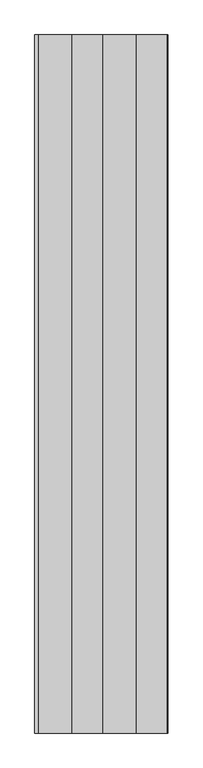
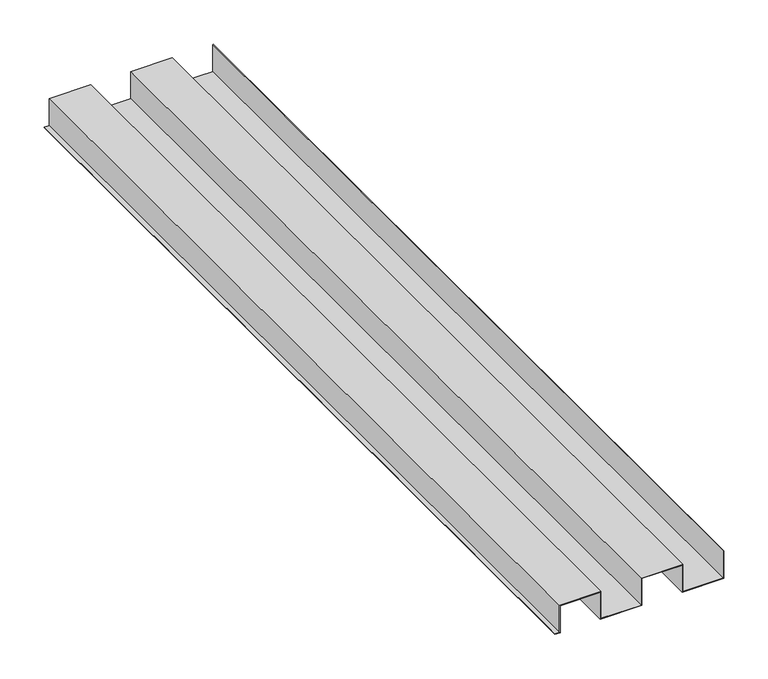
"""IFC4 building model written with IfcOpenShell, lengths in millimetres: proxy geometry, AQUAPLAST - Lamel elewacyjny : Lamel elewacyjny."""

from ifc_helpers import new_model, si_unit, frame, origin, place, context, project, spatial, polyline, outline, extrude, source, transform, mapped, element, save


def specialty_equipment_376aed12(model_context):
    return source(origin(), model_context, "Body", "SweptSolid", [
        extrude(outline(polyline([(0.0, 104.3), (0.0, 158.4), (38.0, 158.4), (38.0, 157.6), (0.8, 157.6), (0.8, 105.1), (38.0, 105.1), (38.0, 51.0), (0.8, 51.0), (0.8, -1.2), (38.0, -1.2), (38.0, -55.3), (0.8, -55.3), (0.8, -61.6), (0.0, -61.6), (0.0, -54.5), (37.2, -54.5), (37.2, -2.0), (0.0, -2.0), (0.0, 51.8), (37.2, 51.8), (37.2, 104.3), (0.0, 104.3)])), frame((0.0, 50.0, 0.0), z_axis=(0.0, 1.0, 0.0), x_axis=(0.0, 0.0, 1.0)), (0.0, 0.0, 1.0), 1150.0),
    ])


if __name__ == "__main__":
    model = new_model("IFC4")
    model_context = context("Model", 3, world=origin())
    ifc_project = project(units=[si_unit("LENGTHUNIT", "METRE", prefix="MILLI")], contexts=[model_context])
    site = spatial("IfcSite", under=ifc_project)
    building = spatial("IfcBuilding", under=site)
    placement = place(None, origin())
    specialty_equipment_shape = specialty_equipment_376aed12(model_context)
    element("IfcBuildingElementProxy", 1, Name="AQUAPLAST - Lamel elewacyjny : Lamel elewacyjny", ObjectType="AQUAPLAST - Lamel elewacyjny : Lamel elewacyjny", at=placement, inside=building, context=model_context, shape_type="MappedRepresentation", body=[
        mapped(specialty_equipment_shape, transform((0.0, 0.0, 0.0), x_axis=(1.0, 0.0, 0.0), y_axis=(0.0, 1.0, 0.0), z_axis=(0.0, 0.0, 1.0))),
    ])
    save(model, "model.ifc")
